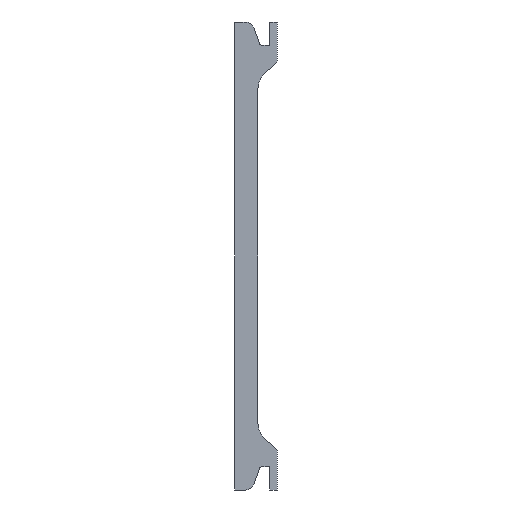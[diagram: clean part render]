
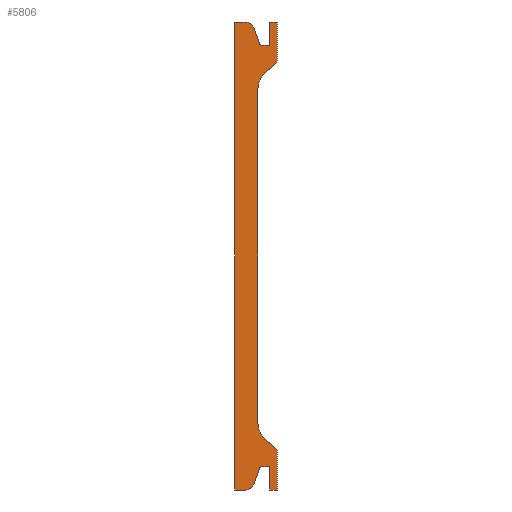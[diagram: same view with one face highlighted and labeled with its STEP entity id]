
A CAD part, left-side view. The second image highlights one B-rep face of the part: STEP entity #5806.
In plain terms, the highlighted planar face has unit normal (-1, 0, 0).
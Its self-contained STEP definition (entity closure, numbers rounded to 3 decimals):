
#18=CIRCLE('',#5917,5.);
#30=CIRCLE('',#5936,1.);
#42=CIRCLE('',#5960,2.5);
#94=CIRCLE('',#6166,5.);
#95=CIRCLE('',#6175,1.);
#97=CIRCLE('',#6189,2.5);
#422=FACE_OUTER_BOUND('',#722,.T.);
#722=EDGE_LOOP('',(#5161,#5162,#5163,#5164,#5165,#5166,#5167,#5168,#5169,
#5170,#5171,#5172,#5173,#5174,#5175,#5176,#5177,#5178,#5179,#5180,#5181,
#5182));
#959=LINE('',#8189,#1709);
#1006=LINE('',#8323,#1756);
#1028=LINE('',#8387,#1778);
#1048=LINE('',#8448,#1798);
#1062=LINE('',#8470,#1812);
#1069=LINE('',#8481,#1819);
#1070=LINE('',#8483,#1820);
#1083=LINE('',#8508,#1833);
#1404=LINE('',#9215,#2154);
#1446=LINE('',#9296,#2196);
#1458=LINE('',#9322,#2208);
#1467=LINE('',#9349,#2217);
#1472=LINE('',#9359,#2222);
#1473=LINE('',#9362,#2223);
#1477=LINE('',#9368,#2227);
#1479=LINE('',#9372,#2229);
#1709=VECTOR('',#6577,10.);
#1756=VECTOR('',#6680,10.);
#1778=VECTOR('',#6740,10.);
#1798=VECTOR('',#6814,10.);
#1812=VECTOR('',#6838,10.);
#1819=VECTOR('',#6847,10.);
#1820=VECTOR('',#6850,10.);
#1833=VECTOR('',#6873,10.);
#2154=VECTOR('',#7490,10.);
#2196=VECTOR('',#7600,10.);
#2208=VECTOR('',#7630,10.);
#2217=VECTOR('',#7669,10.);
#2222=VECTOR('',#7680,10.);
#2223=VECTOR('',#7683,10.);
#2227=VECTOR('',#7689,10.);
#2229=VECTOR('',#7695,10.);
#2399=VERTEX_POINT('',#8186);
#2400=VERTEX_POINT('',#8188);
#2431=VERTEX_POINT('',#8258);
#2432=VERTEX_POINT('',#8260);
#2458=VERTEX_POINT('',#8320);
#2459=VERTEX_POINT('',#8322);
#2470=VERTEX_POINT('',#8350);
#2482=VERTEX_POINT('',#8386);
#2496=VERTEX_POINT('',#8446);
#2499=VERTEX_POINT('',#8469);
#2502=VERTEX_POINT('',#8479);
#2509=VERTEX_POINT('',#8506);
#2746=VERTEX_POINT('',#9212);
#2747=VERTEX_POINT('',#9214);
#2750=VERTEX_POINT('',#9273);
#2751=VERTEX_POINT('',#9293);
#2752=VERTEX_POINT('',#9295);
#2755=VERTEX_POINT('',#9304);
#2757=VERTEX_POINT('',#9320);
#2760=VERTEX_POINT('',#9348);
#2762=VERTEX_POINT('',#9357);
#2763=VERTEX_POINT('',#9361);
#2983=EDGE_CURVE('',#2399,#2400,#959,.T.);
#3015=EDGE_CURVE('',#2431,#2432,#18,.T.);
#3044=EDGE_CURVE('',#2458,#2459,#1006,.T.);
#3060=EDGE_CURVE('',#2459,#2470,#30,.T.);
#3078=EDGE_CURVE('',#2470,#2482,#1028,.T.);
#3096=EDGE_CURVE('',#2482,#2399,#42,.T.);
#3112=EDGE_CURVE('',#2496,#2458,#1048,.T.);
#3128=EDGE_CURVE('',#2432,#2499,#1062,.T.);
#3135=EDGE_CURVE('',#2502,#2496,#1069,.T.);
#3136=EDGE_CURVE('',#2499,#2502,#1070,.T.);
#3149=EDGE_CURVE('',#2431,#2509,#1083,.T.);
#3506=EDGE_CURVE('',#2747,#2746,#1404,.T.);
#3538=EDGE_CURVE('',#2509,#2750,#94,.T.);
#3550=EDGE_CURVE('',#2752,#2751,#1446,.T.);
#3556=EDGE_CURVE('',#2751,#2755,#95,.T.);
#3564=EDGE_CURVE('',#2755,#2757,#1458,.T.);
#3571=EDGE_CURVE('',#2757,#2747,#97,.T.);
#3575=EDGE_CURVE('',#2760,#2752,#1467,.T.);
#3580=EDGE_CURVE('',#2750,#2762,#1472,.T.);
#3581=EDGE_CURVE('',#2763,#2760,#1473,.T.);
#3585=EDGE_CURVE('',#2762,#2763,#1477,.T.);
#3587=EDGE_CURVE('',#2746,#2400,#1479,.T.);
#5161=ORIENTED_EDGE('',*,*,#3149,.T.);
#5162=ORIENTED_EDGE('',*,*,#3538,.T.);
#5163=ORIENTED_EDGE('',*,*,#3580,.T.);
#5164=ORIENTED_EDGE('',*,*,#3585,.T.);
#5165=ORIENTED_EDGE('',*,*,#3581,.T.);
#5166=ORIENTED_EDGE('',*,*,#3575,.T.);
#5167=ORIENTED_EDGE('',*,*,#3550,.T.);
#5168=ORIENTED_EDGE('',*,*,#3556,.T.);
#5169=ORIENTED_EDGE('',*,*,#3564,.T.);
#5170=ORIENTED_EDGE('',*,*,#3571,.T.);
#5171=ORIENTED_EDGE('',*,*,#3506,.T.);
#5172=ORIENTED_EDGE('',*,*,#3587,.T.);
#5173=ORIENTED_EDGE('',*,*,#2983,.F.);
#5174=ORIENTED_EDGE('',*,*,#3096,.F.);
#5175=ORIENTED_EDGE('',*,*,#3078,.F.);
#5176=ORIENTED_EDGE('',*,*,#3060,.F.);
#5177=ORIENTED_EDGE('',*,*,#3044,.F.);
#5178=ORIENTED_EDGE('',*,*,#3112,.F.);
#5179=ORIENTED_EDGE('',*,*,#3135,.F.);
#5180=ORIENTED_EDGE('',*,*,#3136,.F.);
#5181=ORIENTED_EDGE('',*,*,#3128,.F.);
#5182=ORIENTED_EDGE('',*,*,#3015,.F.);
#5506=PLANE('',#6204);
#5806=ADVANCED_FACE('',(#422),#5506,.T.);
#5917=AXIS2_PLACEMENT_3D('',#8261,#6628,#6629);
#5936=AXIS2_PLACEMENT_3D('',#8351,#6699,#6700);
#5960=AXIS2_PLACEMENT_3D('',#8421,#6771,#6772);
#6166=AXIS2_PLACEMENT_3D('',#9275,#7573,#7574);
#6175=AXIS2_PLACEMENT_3D('',#9306,#7608,#7609);
#6189=AXIS2_PLACEMENT_3D('',#9336,#7649,#7650);
#6204=AXIS2_PLACEMENT_3D('',#9371,#7693,#7694);
#6577=DIRECTION('',(0.,1.,0.));
#6628=DIRECTION('center_axis',(-1.,0.,0.));
#6629=DIRECTION('ref_axis',(0.,0.707,-0.707));
#6680=DIRECTION('',(0.,1.,0.));
#6699=DIRECTION('center_axis',(-1.,0.,0.));
#6700=DIRECTION('ref_axis',(0.,0.949,0.316));
#6740=DIRECTION('',(0.,0.316,-0.949));
#6771=DIRECTION('center_axis',(1.,0.,0.));
#6772=DIRECTION('ref_axis',(0.,-0.949,-0.316));
#6814=DIRECTION('',(0.,0.,1.));
#6838=DIRECTION('',(0.,-0.707,-0.707));
#6847=DIRECTION('',(0.,1.,0.));
#6850=DIRECTION('',(0.,0.,-1.));
#6873=DIRECTION('',(0.,0.,1.));
#7490=DIRECTION('',(0.,1.,0.));
#7573=DIRECTION('center_axis',(1.,0.,0.));
#7574=DIRECTION('ref_axis',(0.,0.707,0.707));
#7600=DIRECTION('',(0.,1.,0.));
#7608=DIRECTION('center_axis',(1.,0.,0.));
#7609=DIRECTION('ref_axis',(0.,0.949,-0.316));
#7630=DIRECTION('',(0.,0.316,0.949));
#7649=DIRECTION('center_axis',(-1.,0.,0.));
#7650=DIRECTION('ref_axis',(0.,-0.949,0.316));
#7669=DIRECTION('',(0.,0.,-1.));
#7680=DIRECTION('',(0.,-0.707,0.707));
#7683=DIRECTION('',(0.,1.,0.));
#7689=DIRECTION('',(0.,0.,1.));
#7693=DIRECTION('center_axis',(-1.,0.,0.));
#7694=DIRECTION('ref_axis',(0.,0.,1.));
#7695=DIRECTION('',(0.,0.,-1.));
#8186=CARTESIAN_POINT('',(98.,8.302,-60.));
#8188=CARTESIAN_POINT('',(98.,11.,-60.));
#8189=CARTESIAN_POINT('',(98.,11.,-60.));
#8258=CARTESIAN_POINT('',(98.,5.,-42.929));
#8260=CARTESIAN_POINT('',(98.,3.536,-46.464));
#8261=CARTESIAN_POINT('Origin',(98.,0.,
-42.929));
#8320=CARTESIAN_POINT('',(98.,2.,-54.));
#8322=CARTESIAN_POINT('',(98.,3.779,-54.));
#8323=CARTESIAN_POINT('',(98.,6.5,-54.));
#8350=CARTESIAN_POINT('',(98.,4.728,-54.684));
#8351=CARTESIAN_POINT('Origin',(98.,3.779,-55.));
#8386=CARTESIAN_POINT('',(98.,5.93,-58.291));
#8387=CARTESIAN_POINT('',(98.,-3.161,-31.017));
#8421=CARTESIAN_POINT('Origin',(98.,8.302,-57.5));
#8446=CARTESIAN_POINT('',(98.,2.,-60.));
#8448=CARTESIAN_POINT('',(98.,2.,-30.));
#8469=CARTESIAN_POINT('',(98.,0.,-50.));
#8470=CARTESIAN_POINT('',(98.,17.018,-32.982));
#8479=CARTESIAN_POINT('',(98.,0.,-60.));
#8481=CARTESIAN_POINT('',(98.,11.,-60.));
#8483=CARTESIAN_POINT('',(98.,0.,0.));
#8506=CARTESIAN_POINT('',(98.,5.,42.929));
#8508=CARTESIAN_POINT('',(98.,5.,-21.464));
#9212=CARTESIAN_POINT('',(98.,11.,60.));
#9214=CARTESIAN_POINT('',(98.,8.302,60.));
#9215=CARTESIAN_POINT('',(98.,11.,60.));
#9273=CARTESIAN_POINT('',(98.,3.536,46.464));
#9275=CARTESIAN_POINT('Origin',(98.,0.,
42.929));
#9293=CARTESIAN_POINT('',(98.,3.779,54.));
#9295=CARTESIAN_POINT('',(98.,2.,54.));
#9296=CARTESIAN_POINT('',(98.,6.5,54.));
#9304=CARTESIAN_POINT('',(98.,4.728,54.684));
#9306=CARTESIAN_POINT('Origin',(98.,3.779,55.));
#9320=CARTESIAN_POINT('',(98.,5.93,58.291));
#9322=CARTESIAN_POINT('',(98.,-3.161,31.017));
#9336=CARTESIAN_POINT('Origin',(98.,8.302,57.5));
#9348=CARTESIAN_POINT('',(98.,2.,60.));
#9349=CARTESIAN_POINT('',(98.,2.,30.));
#9357=CARTESIAN_POINT('',(98.,0.,50.));
#9359=CARTESIAN_POINT('',(98.,17.018,32.982));
#9361=CARTESIAN_POINT('',(98.,0.,60.));
#9362=CARTESIAN_POINT('',(98.,11.,60.));
#9368=CARTESIAN_POINT('',(98.,0.,0.));
#9371=CARTESIAN_POINT('Origin',(98.,11.,0.));
#9372=CARTESIAN_POINT('',(98.,11.,0.));
